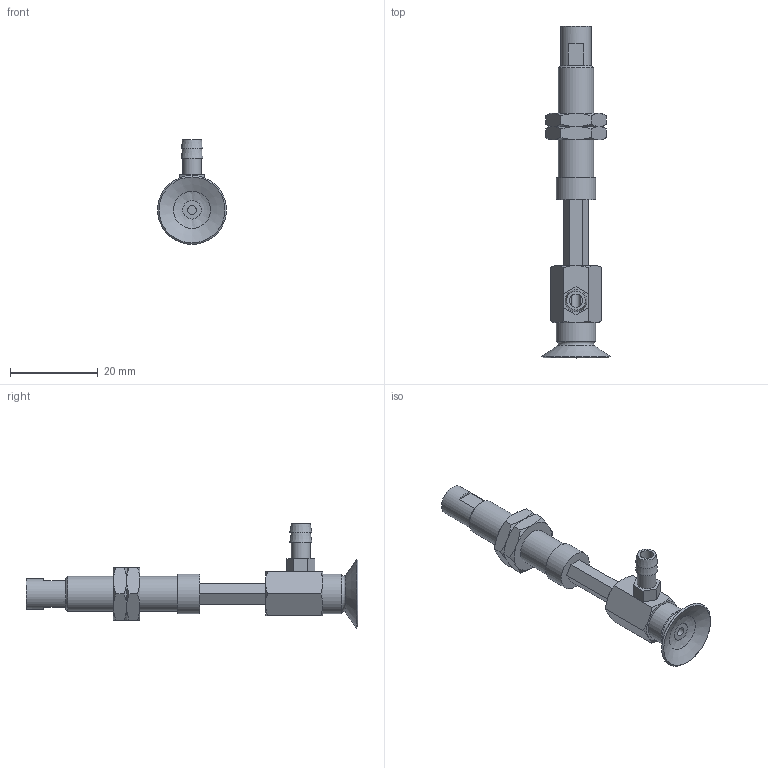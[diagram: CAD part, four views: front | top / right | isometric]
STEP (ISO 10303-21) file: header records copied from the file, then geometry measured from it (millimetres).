
FILE_DESCRIPTION(('STEP AP203'),'1');
FILE_NAME('-T.stp','2025-04-10T07:39:28',(' '),(' '),'Spatial InterOp 3D',' ',' ');
FILE_SCHEMA(('CONFIG_CONTROL_DESIGN'));
Length unit declared in the file: millimetre
Products named in the file (7): BNABPFYH-15A-15-※-T; CONNECTOR-H-15A-15; Nut-15A-15-h; NAPFTH-15A-15-MBODY; NAPFTH-15A-15-FBODY; BPFG-15A-※; T
Assembly tree (7 placements, depth 2):
  BNABPFYH-15A-15-※-T
    CONNECTOR-H-15A-15
    Nut-15A-15-h  x2
    NAPFTH-15A-15-MBODY
    NAPFTH-15A-15-FBODY
    BPFG-15A-※
    T
Bounding box: 15.7 x 75.5 x 23.85 mm (x, y, z)
Volume: 4225.7 mm3; surface area: 5456.9 mm2
Topology: 7 solids, 7 shells, 157 faces, 335 edges, 205 vertices
Faces by surface type: plane 75, cone 54, cylinder 18, torus 9, bspline 1
Full cylindrical faces by diameter (mm): 2 x2, 3 x1, 4 x2, 4.134 x2, 4.3 x1, 5 x2, 6 x2, 7 x1, 7.188 x2, 8 x1, 9 x2
Entity records: 3949 total; most frequent: CARTESIAN_POINT 925, DIRECTION 556, ORIENTED_EDGE 476, EDGE_CURVE 238, AXIS2_PLACEMENT_3D 231, EDGE_LOOP 200, VERTEX_POINT 170, FACE_OUTER_BOUND 161
